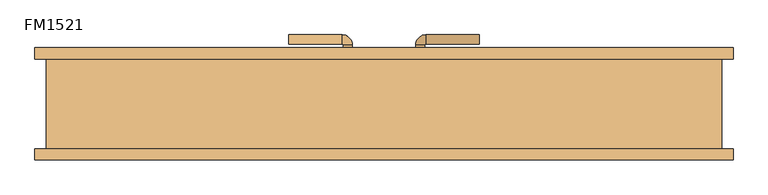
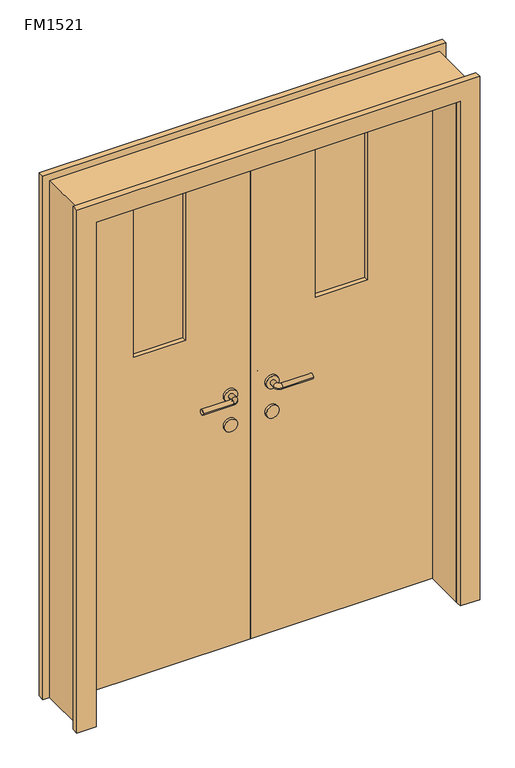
"""IFC4 building model written with IfcOpenShell, lengths in millimetres: door geometry, 双扇防火门 : FM1521."""

from ifc_helpers import new_model, si_unit, point, frame, frame_2d, origin, place, context, project, spatial, polyline, circle_curve, ellipse_curve, trimmed, segment, composite_curve, outline, extrude, source, transform, mapped, element, save
from ifc_brep_helpers import plane_surface, cylinder_surface, revolved_surface, advanced_brep


def fm1521_f2745f28(model_context):
    return source(origin(), model_context, "Body", "SolidModel", [
        extrude(outline(composite_curve([segment(trimmed(circle_curve(frame_2d((900.0, 80.0)), 25.0), [point((900.0, 105.0))], [point((900.0, 55.0))], False, "CARTESIAN"), True, "CONTINUOUS"), segment(trimmed(circle_curve(frame_2d((900.0, 80.0)), 25.0), [point((900.0, 55.0))], [point((900.0, 105.0))], False, "CARTESIAN"), True, "CONTINUOUS")], self_intersect=False)), frame((0.0, 100.0, 0.0), z_axis=(0.0, 1.0, 0.0), x_axis=(0.0, 0.0, 1.0)), (0.0, 0.0, 1.0), 10.0),
        extrude(outline(composite_curve([segment(trimmed(circle_curve(frame_2d((900.0, 80.0)), 25.0), [point((900.0, 105.0))], [point((900.0, 55.0))], False, "CARTESIAN"), True, "CONTINUOUS"), segment(trimmed(circle_curve(frame_2d((900.0, 80.0)), 25.0), [point((900.0, 55.0))], [point((900.0, 105.0))], False, "CARTESIAN"), True, "CONTINUOUS")], self_intersect=False)), frame((0.0, 50.0, 0.0), z_axis=(0.0, 1.0, 0.0), x_axis=(0.0, 0.0, 1.0)), (0.0, 0.0, 1.0), 10.0),
        advanced_brep(
        [(70.0, 110.0, 1020.0), (90.0, 110.0, 1020.0), (70.0, 130.6133551, 1020.0), (90.0, 130.6133551, 1020.0), (211.580964, 153.580964, 1020.0), (211.580964, 133.580964, 1020.0), (92.9676089, 133.580964, 1020.0), (92.9676089, 153.580964, 1020.0)],
        [
            (0, 1, circle_curve(frame((80.0, 110.0, 1020.0), z_axis=(0.0, -1.0, 0.0), x_axis=(1.0, 0.0, 0.0)), 10.0)),
            (1, 0, circle_curve(frame((80.0, 110.0, 1020.0), z_axis=(0.0, -1.0, 0.0), x_axis=(1.0, 0.0, 0.0)), 10.0)),
            (0, 2),
            (2, 3, circle_curve(frame((80.0, 130.6133551, 1020.0), z_axis=(0.0, -1.0, 0.0), x_axis=(1.0, 0.0, 0.0)), 10.0)),
            (3, 1),
            (3, 2, circle_curve(frame((80.0, 130.6133551, 1020.0), z_axis=(0.0, -1.0, 0.0), x_axis=(1.0, 0.0, 0.0)), 10.0)),
            (4, 5, circle_curve(frame((211.580964, 143.580964, 1020.0), z_axis=(1.0, 0.0, 0.0), x_axis=(0.0, -1.0, 0.0)), 10.0)),
            (5, 4, circle_curve(frame((211.580964, 143.580964, 1020.0), z_axis=(1.0, 0.0, 0.0), x_axis=(0.0, -1.0, 0.0)), 10.0)),
            (6, 7, circle_curve(frame((92.9676089, 143.580964, 1020.0), z_axis=(-1.0, 0.0, 0.0), x_axis=(0.0, -1.0, 0.0)), 10.0)),
            (7, 2, circle_curve(frame((92.9676089, 130.6133551, 1020.0), z_axis=(0.0, 0.0, 1.0), x_axis=(-1.0, 0.0, 0.0)), 22.9676089)),
            (3, 6, circle_curve(frame((92.9676089, 130.6133551, 1020.0), z_axis=(0.0, 0.0, -1.0), x_axis=(-1.0, 0.0, 0.0)), 2.9676089)),
            (7, 6, circle_curve(frame((92.9676089, 143.580964, 1020.0), z_axis=(-1.0, 0.0, 0.0), x_axis=(0.0, -1.0, 0.0)), 10.0)),
            (6, 5),
            (4, 7),
        ],
        [
            plane_surface(frame((80.0, 110.0, 900.0), z_axis=(0.0, -1.0, 0.0), x_axis=(0.0, 0.0, 1.0))),
            cylinder_surface(frame((80.0, 110.0, 1020.0), z_axis=(0.0, -1.0, 0.0), x_axis=(1.0, 0.0, 0.0)), 10.0),
            plane_surface(frame((211.580964, 143.580964, 900.0), z_axis=(1.0, 0.0, 0.0), x_axis=(0.0, 0.0, 1.0))),
            revolved_surface(trimmed(ellipse_curve(frame((80.0, 130.6133551, 1020.0), z_axis=(0.0, 1.0, 0.0), x_axis=(1.0, 0.0, 0.0)), 10.0, 10.0), [point((70.0, 130.6133551, 1020.0))], [point((90.0, 130.6133551, 1020.0))], True, "CARTESIAN"), (92.9676089, 130.6133551, 900.0), (0.0, 0.0, 1.0)),
            revolved_surface(trimmed(ellipse_curve(frame((80.0, 130.6133551, 1020.0), z_axis=(0.0, 1.0, 0.0), x_axis=(1.0, 0.0, 0.0)), 10.0, 10.0), [point((90.0, 130.6133551, 1020.0))], [point((70.0, 130.6133551, 1020.0))], True, "CARTESIAN"), (92.9676089, 130.6133551, 900.0), (0.0, 0.0, 1.0)),
            cylinder_surface(frame((92.9676089, 143.580964, 1020.0), z_axis=(-1.0, 0.0, 0.0), x_axis=(0.0, -1.0, 0.0)), 10.0),
        ],
        [
            (0, [[1, 2]]),
            (1, [[3, 4, 5, -1]]),
            (1, [[-5, 6, -3, -2]]),
            (2, [[7, 8]]),
            (3, [[9, 10, -6, 11]]),
            (4, [[12, -11, -4, -10]]),
            (5, [[13, -7, 14, -9]]),
            (5, [[-14, -8, -13, -12]]),
        ],
    ),
        extrude(outline(composite_curve([segment(trimmed(circle_curve(frame_2d((1020.0, 80.0)), 25.0), [point((1020.0, 105.0))], [point((1020.0, 55.0))], False, "CARTESIAN"), True, "CONTINUOUS"), segment(trimmed(circle_curve(frame_2d((1020.0, 80.0)), 25.0), [point((1020.0, 55.0))], [point((1020.0, 105.0))], False, "CARTESIAN"), True, "CONTINUOUS")], self_intersect=False)), frame((0.0, 100.0, 0.0), z_axis=(0.0, 1.0, 0.0), x_axis=(0.0, 0.0, 1.0)), (0.0, 0.0, 1.0), 10.0),
        advanced_brep(
        [(90.0, 50.0, 1020.0), (70.0, 50.0, 1020.0), (70.0, 29.386645, 1020.0), (90.0, 29.386645, 1020.0), (211.580964, 26.419036, 1020.0), (211.580964, 6.419036, 1020.0), (92.9676089, 6.419036, 1020.0), (92.9676089, 26.419036, 1020.0)],
        [
            (0, 1, circle_curve(frame((80.0, 50.0, 1020.0), z_axis=(0.0, 1.0, 0.0), x_axis=(-1.0, 0.0, 0.0)), 10.0)),
            (1, 0, circle_curve(frame((80.0, 50.0, 1020.0), z_axis=(0.0, 1.0, 0.0), x_axis=(-1.0, 0.0, 0.0)), 10.0)),
            (1, 2),
            (2, 3, circle_curve(frame((80.0, 29.386645, 1020.0), z_axis=(0.0, 1.0, 0.0), x_axis=(-1.0, 0.0, 0.0)), 10.0)),
            (3, 0),
            (3, 2, circle_curve(frame((80.0, 29.386645, 1020.0), z_axis=(0.0, 1.0, 0.0), x_axis=(-1.0, 0.0, 0.0)), 10.0)),
            (4, 5, circle_curve(frame((211.580964, 16.419036, 1020.0), z_axis=(1.0, 0.0, 0.0), x_axis=(0.0, -1.0, 0.0)), 10.0)),
            (5, 4, circle_curve(frame((211.580964, 16.419036, 1020.0), z_axis=(1.0, 0.0, 0.0), x_axis=(0.0, -1.0, 0.0)), 10.0)),
            (6, 7, circle_curve(frame((92.9676089, 16.419036, 1020.0), z_axis=(-1.0, 0.0, 0.0), x_axis=(0.0, -1.0, 0.0)), 10.0)),
            (7, 3, circle_curve(frame((92.9676089, 29.386645, 1020.0), z_axis=(0.0, 0.0, -1.0), x_axis=(-1.0, 0.0, 0.0)), 2.9676089)),
            (2, 6, circle_curve(frame((92.9676089, 29.386645, 1020.0), z_axis=(0.0, 0.0, 1.0), x_axis=(-1.0, 0.0, 0.0)), 22.9676089)),
            (7, 6, circle_curve(frame((92.9676089, 16.419036, 1020.0), z_axis=(-1.0, 0.0, 0.0), x_axis=(0.0, -1.0, 0.0)), 10.0)),
            (6, 5),
            (4, 7),
        ],
        [
            plane_surface(frame((80.0, 50.0, 900.0), z_axis=(0.0, 1.0, 0.0), x_axis=(0.0, 0.0, 1.0))),
            cylinder_surface(frame((80.0, 50.0, 1020.0), z_axis=(0.0, 1.0, 0.0), x_axis=(-1.0, 0.0, 0.0)), 10.0),
            plane_surface(frame((211.580964, 16.419036, 900.0), z_axis=(1.0, 0.0, 0.0), x_axis=(0.0, 0.0, 1.0))),
            revolved_surface(trimmed(ellipse_curve(frame((80.0, 29.386645, 1020.0), z_axis=(0.0, -1.0, 0.0), x_axis=(-1.0, 0.0, 0.0)), 10.0, 10.0), [point((90.0, 29.386645, 1020.0))], [point((70.0, 29.386645, 1020.0))], True, "CARTESIAN"), (92.9676089, 29.386645, 900.0), (0.0, 0.0, -1.0)),
            revolved_surface(trimmed(ellipse_curve(frame((80.0, 29.386645, 1020.0), z_axis=(0.0, -1.0, 0.0), x_axis=(-1.0, 0.0, 0.0)), 10.0, 10.0), [point((70.0, 29.386645, 1020.0))], [point((90.0, 29.386645, 1020.0))], True, "CARTESIAN"), (92.9676089, 29.386645, 900.0), (0.0, 0.0, -1.0)),
            cylinder_surface(frame((92.9676089, 16.419036, 1020.0), z_axis=(-1.0, 0.0, 0.0), x_axis=(0.0, -1.0, 0.0)), 10.0),
        ],
        [
            (0, [[1, 2]]),
            (1, [[3, 4, 5, -2]]),
            (1, [[-5, 6, -3, -1]]),
            (2, [[7, 8]]),
            (3, [[9, 10, -4, 11]]),
            (4, [[12, -11, -6, -10]]),
            (5, [[13, -7, 14, -9]]),
            (5, [[-14, -8, -13, -12]]),
        ],
    ),
        extrude(outline(composite_curve([segment(trimmed(circle_curve(frame_2d((1020.0, 80.0)), 25.0), [point((1020.0, 105.0))], [point((1020.0, 55.0))], False, "CARTESIAN"), True, "CONTINUOUS"), segment(trimmed(circle_curve(frame_2d((1020.0, 80.0)), 25.0), [point((1020.0, 55.0))], [point((1020.0, 105.0))], False, "CARTESIAN"), True, "CONTINUOUS")], self_intersect=False)), frame((0.0, 50.0, 0.0), z_axis=(0.0, 1.0, 0.0), x_axis=(0.0, 0.0, 1.0)), (0.0, 0.0, 1.0), 10.0),
        extrude(outline(composite_curve([segment(trimmed(circle_curve(frame_2d((900.0, -80.0)), 25.0), [point((900.0, -105.0))], [point((900.0, -55.0))], False, "CARTESIAN"), True, "CONTINUOUS"), segment(trimmed(circle_curve(frame_2d((900.0, -80.0)), 25.0), [point((900.0, -55.0))], [point((900.0, -105.0))], False, "CARTESIAN"), True, "CONTINUOUS")], self_intersect=False)), frame((0.0, 100.0, 0.0), z_axis=(0.0, 1.0, 0.0), x_axis=(0.0, 0.0, 1.0)), (0.0, 0.0, 1.0), 10.0),
        extrude(outline(composite_curve([segment(trimmed(circle_curve(frame_2d((900.0, -80.0)), 25.0), [point((900.0, -105.0))], [point((900.0, -55.0))], False, "CARTESIAN"), True, "CONTINUOUS"), segment(trimmed(circle_curve(frame_2d((900.0, -80.0)), 25.0), [point((900.0, -55.0))], [point((900.0, -105.0))], False, "CARTESIAN"), True, "CONTINUOUS")], self_intersect=False)), frame((0.0, 50.0, 0.0), z_axis=(0.0, 1.0, 0.0), x_axis=(0.0, 0.0, 1.0)), (0.0, 0.0, 1.0), 10.0),
        advanced_brep(
        [(-70.0, 110.0, 1020.0), (-90.0, 110.0, 1020.0), (-90.0, 130.6133551, 1020.0), (-70.0, 130.6133551, 1020.0), (-211.580964, 153.580964, 1020.0), (-211.580964, 133.580964, 1020.0), (-92.9676089, 133.580964, 1020.0), (-92.9676089, 153.580964, 1020.0)],
        [
            (0, 1, circle_curve(frame((-80.0, 110.0, 1020.0), z_axis=(0.0, -1.0, 0.0), x_axis=(-1.0, 0.0, 0.0)), 10.0)),
            (1, 0, circle_curve(frame((-80.0, 110.0, 1020.0), z_axis=(0.0, -1.0, 0.0), x_axis=(-1.0, 0.0, 0.0)), 10.0)),
            (1, 2),
            (2, 3, circle_curve(frame((-80.0, 130.6133551, 1020.0), z_axis=(0.0, -1.0, 0.0), x_axis=(-1.0, 0.0, 0.0)), 10.0)),
            (3, 0),
            (3, 2, circle_curve(frame((-80.0, 130.6133551, 1020.0), z_axis=(0.0, -1.0, 0.0), x_axis=(-1.0, 0.0, 0.0)), 10.0)),
            (4, 5, circle_curve(frame((-211.580964, 143.580964, 1020.0), z_axis=(-1.0, 0.0, 0.0), x_axis=(0.0, -1.0, 0.0)), 10.0)),
            (5, 4, circle_curve(frame((-211.580964, 143.580964, 1020.0), z_axis=(-1.0, 0.0, 0.0), x_axis=(0.0, -1.0, 0.0)), 10.0)),
            (6, 2, circle_curve(frame((-92.9676089, 130.6133551, 1020.0), z_axis=(0.0, 0.0, -1.0), x_axis=(1.0, 0.0, 0.0)), 2.9676089)),
            (3, 7, circle_curve(frame((-92.9676089, 130.6133551, 1020.0), z_axis=(0.0, 0.0, 1.0), x_axis=(1.0, 0.0, 0.0)), 22.9676089)),
            (7, 6, circle_curve(frame((-92.9676089, 143.580964, 1020.0), z_axis=(1.0, 0.0, 0.0), x_axis=(0.0, -1.0, 0.0)), 10.0)),
            (6, 7, circle_curve(frame((-92.9676089, 143.580964, 1020.0), z_axis=(1.0, 0.0, 0.0), x_axis=(0.0, -1.0, 0.0)), 10.0)),
            (7, 4),
            (5, 6),
        ],
        [
            plane_surface(frame((-80.0, 110.0, 900.0), z_axis=(0.0, -1.0, 0.0), x_axis=(0.0, 0.0, 1.0))),
            cylinder_surface(frame((-80.0, 110.0, 1020.0), z_axis=(0.0, -1.0, 0.0), x_axis=(-1.0, 0.0, 0.0)), 10.0),
            plane_surface(frame((-211.580964, 143.580964, 900.0), z_axis=(-1.0, 0.0, 0.0), x_axis=(0.0, 0.0, 1.0))),
            revolved_surface(trimmed(ellipse_curve(frame((-80.0, 130.6133551, 1020.0), z_axis=(0.0, -1.0, 0.0), x_axis=(-1.0, 0.0, 0.0)), 10.0, 10.0), [point((-70.0, 130.6133551, 1020.0))], [point((-90.0, 130.6133551, 1020.0))], True, "CARTESIAN"), (-92.9676089, 130.6133551, 900.0), (0.0, 0.0, 1.0)),
            revolved_surface(trimmed(ellipse_curve(frame((-80.0, 130.6133551, 1020.0), z_axis=(0.0, -1.0, 0.0), x_axis=(-1.0, 0.0, 0.0)), 10.0, 10.0), [point((-90.0, 130.6133551, 1020.0))], [point((-70.0, 130.6133551, 1020.0))], True, "CARTESIAN"), (-92.9676089, 130.6133551, 900.0), (0.0, 0.0, 1.0)),
            cylinder_surface(frame((-92.9676089, 143.580964, 1020.0), z_axis=(1.0, 0.0, 0.0), x_axis=(0.0, -1.0, 0.0)), 10.0),
        ],
        [
            (0, [[1, 2]]),
            (1, [[-2, 3, 4, 5]]),
            (1, [[-1, -5, 6, -3]]),
            (2, [[7, 8]]),
            (3, [[9, -6, 10, 11]]),
            (4, [[-10, -4, -9, 12]]),
            (5, [[-11, 13, -8, 14]]),
            (5, [[-12, -14, -7, -13]]),
        ],
    ),
        extrude(outline(composite_curve([segment(trimmed(circle_curve(frame_2d((1020.0, -80.0)), 25.0), [point((1020.0, -105.0))], [point((1020.0, -55.0))], False, "CARTESIAN"), True, "CONTINUOUS"), segment(trimmed(circle_curve(frame_2d((1020.0, -80.0)), 25.0), [point((1020.0, -55.0))], [point((1020.0, -105.0))], False, "CARTESIAN"), True, "CONTINUOUS")], self_intersect=False)), frame((0.0, 100.0, 0.0), z_axis=(0.0, 1.0, 0.0), x_axis=(0.0, 0.0, 1.0)), (0.0, 0.0, 1.0), 10.0),
        advanced_brep(
        [(-90.0, 50.0, 1020.0), (-70.0, 50.0, 1020.0), (-90.0, 29.386645, 1020.0), (-70.0, 29.386645, 1020.0), (-211.580964, 26.419036, 1020.0), (-211.580964, 6.419036, 1020.0), (-92.9676089, 6.419036, 1020.0), (-92.9676089, 26.419036, 1020.0)],
        [
            (0, 1, circle_curve(frame((-80.0, 50.0, 1020.0), z_axis=(0.0, 1.0, 0.0), x_axis=(1.0, 0.0, 0.0)), 10.0)),
            (1, 0, circle_curve(frame((-80.0, 50.0, 1020.0), z_axis=(0.0, 1.0, 0.0), x_axis=(1.0, 0.0, 0.0)), 10.0)),
            (0, 2),
            (2, 3, circle_curve(frame((-80.0, 29.386645, 1020.0), z_axis=(0.0, 1.0, 0.0), x_axis=(1.0, 0.0, 0.0)), 10.0)),
            (3, 1),
            (3, 2, circle_curve(frame((-80.0, 29.386645, 1020.0), z_axis=(0.0, 1.0, 0.0), x_axis=(1.0, 0.0, 0.0)), 10.0)),
            (4, 5, circle_curve(frame((-211.580964, 16.419036, 1020.0), z_axis=(-1.0, 0.0, 0.0), x_axis=(0.0, -1.0, 0.0)), 10.0)),
            (5, 4, circle_curve(frame((-211.580964, 16.419036, 1020.0), z_axis=(-1.0, 0.0, 0.0), x_axis=(0.0, -1.0, 0.0)), 10.0)),
            (6, 3, circle_curve(frame((-92.9676089, 29.386645, 1020.0), z_axis=(0.0, 0.0, 1.0), x_axis=(1.0, 0.0, 0.0)), 22.9676089)),
            (2, 7, circle_curve(frame((-92.9676089, 29.386645, 1020.0), z_axis=(0.0, 0.0, -1.0), x_axis=(1.0, 0.0, 0.0)), 2.9676089)),
            (7, 6, circle_curve(frame((-92.9676089, 16.419036, 1020.0), z_axis=(1.0, 0.0, 0.0), x_axis=(0.0, -1.0, 0.0)), 10.0)),
            (6, 7, circle_curve(frame((-92.9676089, 16.419036, 1020.0), z_axis=(1.0, 0.0, 0.0), x_axis=(0.0, -1.0, 0.0)), 10.0)),
            (7, 4),
            (5, 6),
        ],
        [
            plane_surface(frame((-80.0, 50.0, 900.0), z_axis=(0.0, 1.0, 0.0), x_axis=(0.0, 0.0, 1.0))),
            cylinder_surface(frame((-80.0, 50.0, 1020.0), z_axis=(0.0, 1.0, 0.0), x_axis=(1.0, 0.0, 0.0)), 10.0),
            plane_surface(frame((-211.580964, 16.419036, 900.0), z_axis=(-1.0, 0.0, 0.0), x_axis=(0.0, 0.0, 1.0))),
            revolved_surface(trimmed(ellipse_curve(frame((-80.0, 29.386645, 1020.0), z_axis=(0.0, 1.0, 0.0), x_axis=(1.0, 0.0, 0.0)), 10.0, 10.0), [point((-90.0, 29.386645, 1020.0))], [point((-70.0, 29.386645, 1020.0))], True, "CARTESIAN"), (-92.9676089, 29.386645, 900.0), (0.0, 0.0, -1.0)),
            revolved_surface(trimmed(ellipse_curve(frame((-80.0, 29.386645, 1020.0), z_axis=(0.0, 1.0, 0.0), x_axis=(1.0, 0.0, 0.0)), 10.0, 10.0), [point((-70.0, 29.386645, 1020.0))], [point((-90.0, 29.386645, 1020.0))], True, "CARTESIAN"), (-92.9676089, 29.386645, 900.0), (0.0, 0.0, -1.0)),
            cylinder_surface(frame((-92.9676089, 16.419036, 1020.0), z_axis=(1.0, 0.0, 0.0), x_axis=(0.0, -1.0, 0.0)), 10.0),
        ],
        [
            (0, [[1, 2]]),
            (1, [[-1, 3, 4, 5]]),
            (1, [[-2, -5, 6, -3]]),
            (2, [[7, 8]]),
            (3, [[9, -4, 10, 11]]),
            (4, [[-10, -6, -9, 12]]),
            (5, [[-11, 13, -8, 14]]),
            (5, [[-12, -14, -7, -13]]),
        ],
    ),
        extrude(outline(composite_curve([segment(trimmed(circle_curve(frame_2d((1020.0, -80.0)), 25.0), [point((1020.0, -105.0))], [point((1020.0, -55.0))], False, "CARTESIAN"), True, "CONTINUOUS"), segment(trimmed(circle_curve(frame_2d((1020.0, -80.0)), 25.0), [point((1020.0, -55.0))], [point((1020.0, -105.0))], False, "CARTESIAN"), True, "CONTINUOUS")], self_intersect=False)), frame((0.0, 50.0, 0.0), z_axis=(0.0, 1.0, 0.0), x_axis=(0.0, 0.0, 1.0)), (0.0, 0.0, 1.0), 10.0),
        extrude(outline(polyline([(0.0, 775.0), (2125.0, 775.0), (2125.0, -775.0), (0.0, -775.0), (0.0, -700.0), (2050.0, -700.0), (2050.0, 700.0), (0.0, 700.0), (0.0, 775.0)])), frame((0.0, 100.0, 0.0), z_axis=(0.0, 1.0, 0.0), x_axis=(0.0, 0.0, 1.0)), (0.0, 0.0, 1.0), 25.0),
        extrude(outline(polyline([(2125.0, 775.0), (2125.0, -775.0), (0.0, -775.0), (0.0, -700.0), (2050.0, -700.0), (2050.0, 700.0), (0.0, 700.0), (0.0, 775.0), (2125.0, 775.0)])), frame((0.0, -125.0, 0.0), z_axis=(0.0, 1.0, 0.0), x_axis=(0.0, 0.0, 1.0)), (0.0, 0.0, 1.0), 25.0),
        extrude(outline(polyline([(450.0, 78.0), (250.0, 78.0), (250.0, 82.0), (450.0, 82.0), (450.0, 78.0)])), frame((0.0, 0.0, 1300.0), z_axis=(0.0, 0.0, 1.0), x_axis=(1.0, 0.0, 0.0)), (0.0, 0.0, 1.0), 600.0),
        extrude(outline(polyline([(-250.0, 78.0), (-450.0, 78.0), (-450.0, 82.0), (-250.0, 82.0), (-250.0, 78.0)])), frame((0.0, 0.0, 1300.0), z_axis=(0.0, 0.0, 1.0), x_axis=(1.0, 0.0, 0.0)), (0.0, 0.0, 1.0), 600.0),
        extrude(outline(polyline([(2050.0, 700.0), (2050.0, 0.0), (0.0, 0.0), (0.0, 700.0), (2050.0, 700.0)]), holes=[polyline([(1900.0, 250.0), (1900.0, 450.0), (1300.0, 450.0), (1300.0, 250.0), (1900.0, 250.0)])]), frame((0.0, 60.0, 0.0), z_axis=(0.0, 1.0, 0.0), x_axis=(0.0, 0.0, 1.0)), (0.0, 0.0, 1.0), 40.0),
        extrude(outline(polyline([(2050.0, 0.0), (2050.0, -700.0), (0.0, -700.0), (0.0, 0.0), (2050.0, 0.0)]), holes=[polyline([(1900.0, -450.0), (1900.0, -250.0), (1300.0, -250.0), (1300.0, -450.0), (1900.0, -450.0)])]), frame((0.0, 60.0, 0.0), z_axis=(0.0, 1.0, 0.0), x_axis=(0.0, 0.0, 1.0)), (0.0, 0.0, 1.0), 40.0),
        extrude(outline(polyline([(2100.0, -750.0), (0.0, -750.0), (0.0, -700.0), (2050.0, -700.0), (2050.0, 700.0), (0.0, 700.0), (0.0, 750.0), (2100.0, 750.0), (2100.0, -750.0)])), frame((0.0, -100.0, 0.0), z_axis=(0.0, 1.0, 0.0), x_axis=(0.0, 0.0, 1.0)), (0.0, 0.0, 1.0), 200.0),
    ])


if __name__ == "__main__":
    model = new_model("IFC4")
    model_context = context("Model", 3, world=origin())
    ifc_project = project(units=[si_unit("LENGTHUNIT", "METRE", prefix="MILLI")], contexts=[model_context])
    site = spatial("IfcSite", under=ifc_project)
    building = spatial("IfcBuilding", under=site)
    placement = place(None, origin())
    fm1521_shape = fm1521_f2745f28(model_context)
    element("IfcDoor", 1, ObjectType="双扇防火门 : FM1521", at=placement, inside=building, context=model_context, shape_type="MappedRepresentation", body=[
        mapped(fm1521_shape, transform((0.0, 0.0, 0.0), x_axis=(1.0, 0.0, 0.0), y_axis=(0.0, 1.0, 0.0), z_axis=(0.0, 0.0, 1.0))),
    ])
    save(model, "model.ifc")
